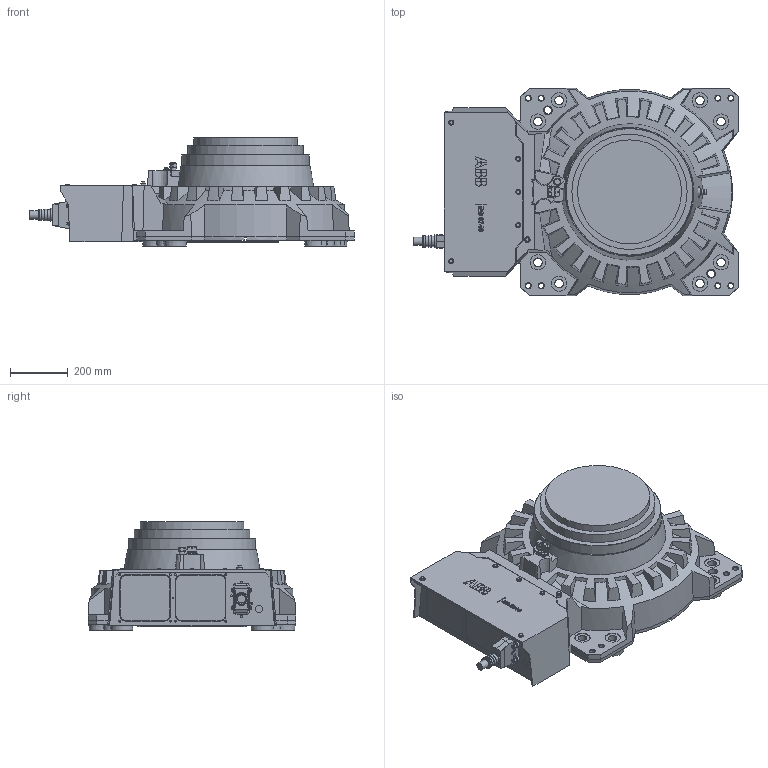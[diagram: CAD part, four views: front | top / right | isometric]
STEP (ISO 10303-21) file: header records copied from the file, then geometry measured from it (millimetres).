
FILE_DESCRIPTION (( 'STEP AP214' ), '1' );
FILE_NAME ('IRB6740-LID_230kg-300_OC_00_BASE_CAD.step', '2026-05-07T13:20:59', ( '' ), ( '' ), 'SwSTEP 2.0', 'SolidWorks 2024', '' );
FILE_SCHEMA (( 'AUTOMOTIVE_DESIGN' ));
Length unit declared in the file: millimetre
Products named in the file (1): IRB6740-LID_230kg-300_OC_00_BASE_CAD
Bounding box: 1124.5 x 720 x 374 mm (x, y, z)
Volume: 118805758.8 mm3; surface area: 2785970.6 mm2
Topology: 1 solids, 4 shells, 982 faces, 2516 edges, 1646 vertices
Faces by surface type: plane 627, cylinder 165, cone 140, bspline 38, torus 8, sphere 4
Full cylindrical faces by diameter (mm): 5.2 x4, 5.45 x1, 6.6 x4, 6.8 x8, 10 x4, 11.05 x2, 12 x8, 17 x1, 17.5 x8, 17.7 x1, 19.6 x1, 19.7 x2, 19.93 x1, 20 x2, 23 x1, 25 x1, 26.5 x1, 28 x1, 28.58 x1, 30 x10, 36 x3, 40 x4, 45 x5, 53 x8, 360 x1, 399 x1, 440 x1
Entity records: 42424 total; most frequent: CARTESIAN_POINT 8837, ORIENTED_EDGE 4682, DIRECTION 4431, EDGE_CURVE 2341, VERTEX_POINT 1600, AXIS2_PLACEMENT_3D 1515, VECTOR 1401, LINE 1401
